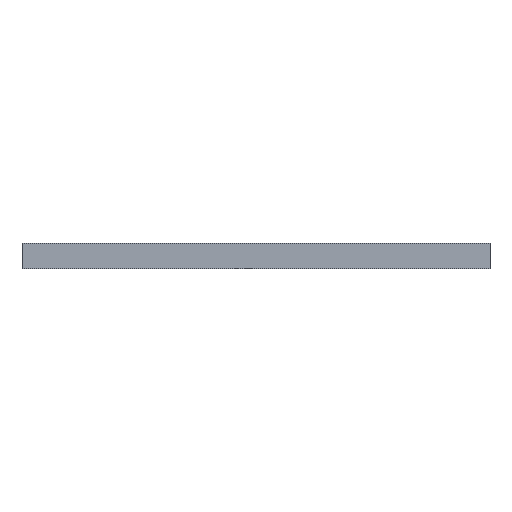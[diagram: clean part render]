
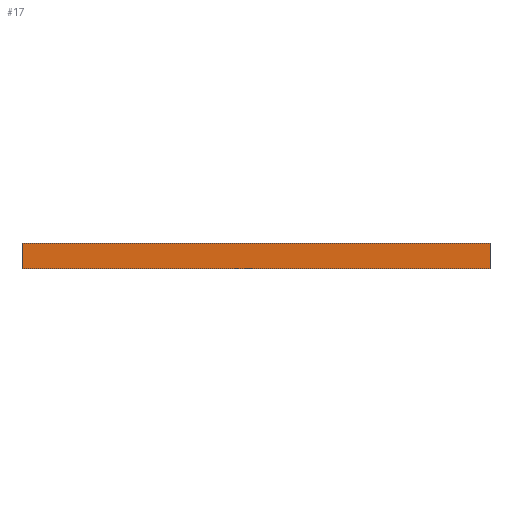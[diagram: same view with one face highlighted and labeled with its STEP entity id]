
A CAD part, front view. The second image highlights one B-rep face of the part: STEP entity #17.
In plain terms, the highlighted planar face has unit normal (0, -1, 0).
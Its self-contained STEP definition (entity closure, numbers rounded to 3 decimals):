
#17 = ADVANCED_FACE('',(#18),#52,.F.);
#18 = FACE_BOUND('',#19,.F.);
#19 = EDGE_LOOP('',(#20,#30,#38,#46));
#20 = ORIENTED_EDGE('',*,*,#21,.T.);
#21 = EDGE_CURVE('',#22,#24,#26,.T.);
#22 = VERTEX_POINT('',#23);
#23 = CARTESIAN_POINT('',(0.,0.,0.));
#24 = VERTEX_POINT('',#25);
#25 = CARTESIAN_POINT('',(0.,0.,-3.));
#26 = LINE('',#27,#28);
#27 = CARTESIAN_POINT('',(0.,0.,0.));
#28 = VECTOR('',#29,1.);
#29 = DIRECTION('',(-0.,-0.,-1.));
#30 = ORIENTED_EDGE('',*,*,#31,.T.);
#31 = EDGE_CURVE('',#24,#32,#34,.T.);
#32 = VERTEX_POINT('',#33);
#33 = CARTESIAN_POINT('',(-56.,0.,-3.));
#34 = LINE('',#35,#36);
#35 = CARTESIAN_POINT('',(0.,0.,-3.));
#36 = VECTOR('',#37,1.);
#37 = DIRECTION('',(-1.,0.,0.));
#38 = ORIENTED_EDGE('',*,*,#39,.F.);
#39 = EDGE_CURVE('',#40,#32,#42,.T.);
#40 = VERTEX_POINT('',#41);
#41 = CARTESIAN_POINT('',(-56.,0.,0.));
#42 = LINE('',#43,#44);
#43 = CARTESIAN_POINT('',(-56.,0.,0.));
#44 = VECTOR('',#45,1.);
#45 = DIRECTION('',(-0.,-0.,-1.));
#46 = ORIENTED_EDGE('',*,*,#47,.F.);
#47 = EDGE_CURVE('',#22,#40,#48,.T.);
#48 = LINE('',#49,#50);
#49 = CARTESIAN_POINT('',(0.,0.,0.));
#50 = VECTOR('',#51,1.);
#51 = DIRECTION('',(-1.,0.,0.));
#52 = PLANE('',#53);
#53 = AXIS2_PLACEMENT_3D('',#54,#55,#56);
#54 = CARTESIAN_POINT('',(0.,0.,0.));
#55 = DIRECTION('',(0.,1.,0.));
#56 = DIRECTION('',(-1.,0.,0.));
